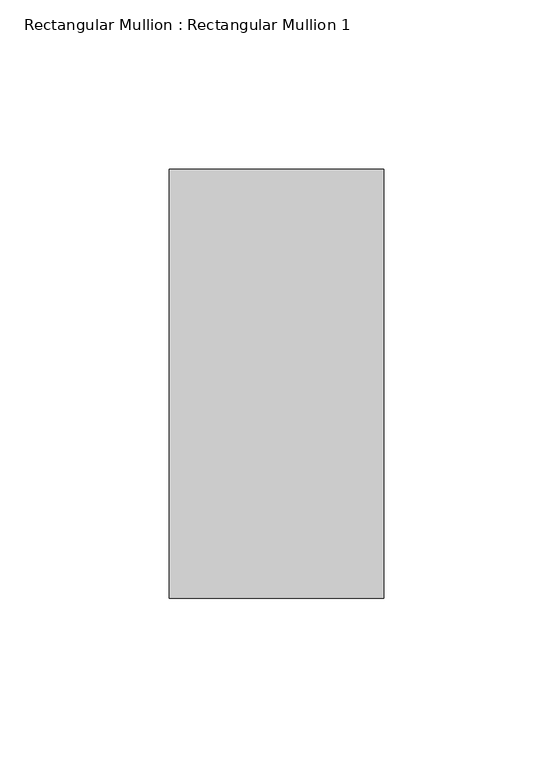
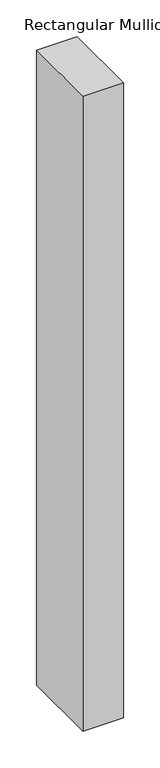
"""IFC4 building model written with IfcOpenShell, lengths in millimetres: member geometry, Rectangular Mullion : Rectangular Mullion 1."""

from ifc_helpers import new_model, si_unit, frame, origin, place, context, project, spatial, polyline, outline, extrude, source, transform, mapped, element, save


def rectangular_mullion_rectangular_mullion_1_0dc72f1f(model_context):
    return source(origin(), model_context, "Body", "SweptSolid", [
        extrude(outline(polyline([(0.0, 63.5), (0.0, -63.5), (-63.5, -63.5), (-63.5, 63.5), (0.0, 63.5)])), frame((0.0, 0.0, -1056.8214287), z_axis=(0.0, 0.0, 1.0), x_axis=(1.0, 0.0, 0.0)), (0.0, 0.0, 1.0), 1056.8214287),
    ])


if __name__ == "__main__":
    model = new_model("IFC4")
    model_context = context("Model", 3, world=origin())
    ifc_project = project(units=[si_unit("LENGTHUNIT", "METRE", prefix="MILLI")], contexts=[model_context])
    site = spatial("IfcSite", under=ifc_project)
    building = spatial("IfcBuilding", under=site)
    placement = place(None, origin())
    rectangular_mullion_rectangular_mullion_1_shape = rectangular_mullion_rectangular_mullion_1_0dc72f1f(model_context)
    element("IfcMember", 1, ObjectType="Rectangular Mullion : Rectangular Mullion 1", at=placement, inside=building, context=model_context, shape_type="MappedRepresentation", body=[
        mapped(rectangular_mullion_rectangular_mullion_1_shape, transform((0.0, 0.0, 0.0), x_axis=(1.0, 0.0, 0.0), y_axis=(0.0, 1.0, 0.0), z_axis=(0.0, 0.0, 1.0))),
    ])
    save(model, "model.ifc")
